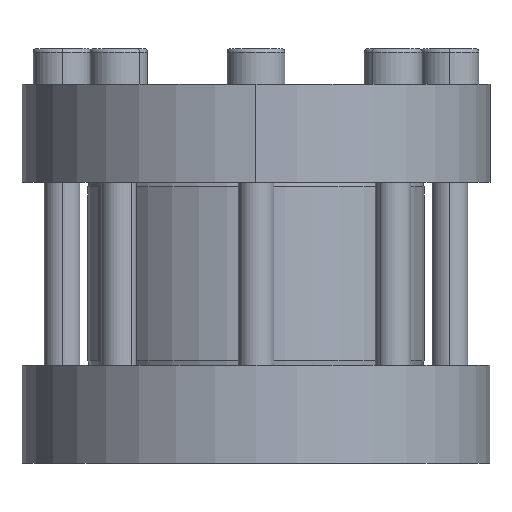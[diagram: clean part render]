
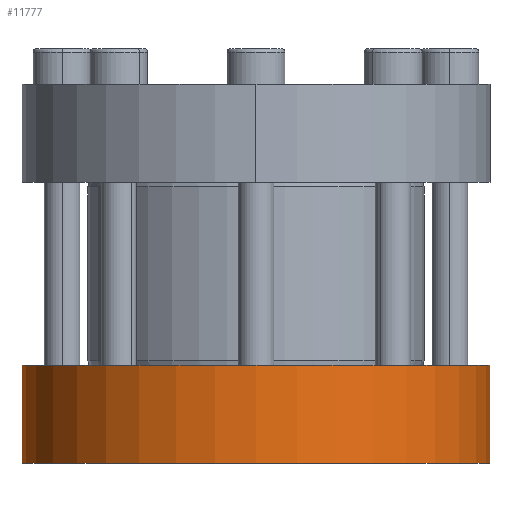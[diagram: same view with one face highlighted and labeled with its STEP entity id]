
A CAD part, front view. The second image highlights one B-rep face of the part: STEP entity #11777.
In plain terms, the highlighted cylindrical face has radius 52.5 mm (diameter 105 mm), a partial arc.
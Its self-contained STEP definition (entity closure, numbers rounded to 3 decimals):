
#456 = CARTESIAN_POINT ( 'NONE',  ( 0., 0., 19.991 ) ) ;
#1355 = FACE_OUTER_BOUND ( 'NONE', #11118, .T. ) ;
#1399 = DIRECTION ( 'NONE',  ( 1., 0., 0. ) ) ;
#1416 = EDGE_CURVE ( 'NONE', #10269, #10039, #3546, .T. ) ;
#1723 = DIRECTION ( 'NONE',  ( -1., 0., 0. ) ) ;
#2692 = AXIS2_PLACEMENT_3D ( 'NONE', #8830, #3306, #9761 ) ;
#3191 = EDGE_CURVE ( 'NONE', #9335, #5045, #4425, .T. ) ;
#3239 = ORIENTED_EDGE ( 'NONE', *, *, #4828, .T. ) ;
#3306 = DIRECTION ( 'NONE',  ( 0., 0., 1. ) ) ;
#3525 = AXIS2_PLACEMENT_3D ( 'NONE', #456, #6914, #1399 ) ;
#3546 = LINE ( 'NONE', #3573, #10614 ) ;
#3573 = CARTESIAN_POINT ( 'NONE',  ( 52.5, 0., 19.991 ) ) ;
#4425 = LINE ( 'NONE', #10482, #11478 ) ;
#4527 = CARTESIAN_POINT ( 'NONE',  ( 52.5, 0., 19.991 ) ) ;
#4828 = EDGE_CURVE ( 'NONE', #5045, #10039, #10261, .T. ) ;
#5045 = VERTEX_POINT ( 'NONE', #9956 ) ;
#5428 = DIRECTION ( 'NONE',  ( 0., 0., -1. ) ) ;
#5557 = ORIENTED_EDGE ( 'NONE', *, *, #11171, .F. ) ;
#5829 = DIRECTION ( 'NONE',  ( 0., 0., -1. ) ) ;
#5921 = AXIS2_PLACEMENT_3D ( 'NONE', #8126, #6263, #1723 ) ;
#6241 = CARTESIAN_POINT ( 'NONE',  ( -52.5, 0., 19.991 ) ) ;
#6263 = DIRECTION ( 'NONE',  ( 0., 0., -1. ) ) ;
#6914 = DIRECTION ( 'NONE',  ( 0., 0., 1. ) ) ;
#8126 = CARTESIAN_POINT ( 'NONE',  ( 0., 0., 19.991 ) ) ;
#8830 = CARTESIAN_POINT ( 'NONE',  ( 0., 0., -2.009 ) ) ;
#9335 = VERTEX_POINT ( 'NONE', #6241 ) ;
#9743 = ORIENTED_EDGE ( 'NONE', *, *, #1416, .F. ) ;
#9761 = DIRECTION ( 'NONE',  ( 1., 0., 0. ) ) ;
#9956 = CARTESIAN_POINT ( 'NONE',  ( -52.5, 0., -2.009 ) ) ;
#10008 = CYLINDRICAL_SURFACE ( 'NONE', #5921, 52.5 ) ;
#10039 = VERTEX_POINT ( 'NONE', #11878 ) ;
#10261 = CIRCLE ( 'NONE', #2692, 52.5 ) ;
#10269 = VERTEX_POINT ( 'NONE', #4527 ) ;
#10482 = CARTESIAN_POINT ( 'NONE',  ( -52.5, 0., 19.991 ) ) ;
#10614 = VECTOR ( 'NONE', #5428, 1000. ) ;
#11118 = EDGE_LOOP ( 'NONE', ( #9743, #5557, #11386, #3239 ) ) ;
#11171 = EDGE_CURVE ( 'NONE', #9335, #10269, #11847, .T. ) ;
#11386 = ORIENTED_EDGE ( 'NONE', *, *, #3191, .T. ) ;
#11478 = VECTOR ( 'NONE', #5829, 1000. ) ;
#11777 = ADVANCED_FACE ( 'NONE', ( #1355 ), #10008, .T. ) ;
#11847 = CIRCLE ( 'NONE', #3525, 52.5 ) ;
#11878 = CARTESIAN_POINT ( 'NONE',  ( 52.5, 0., -2.009 ) ) ;
